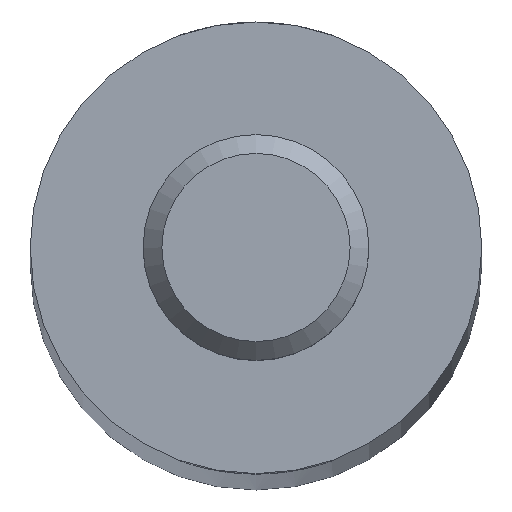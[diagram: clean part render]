
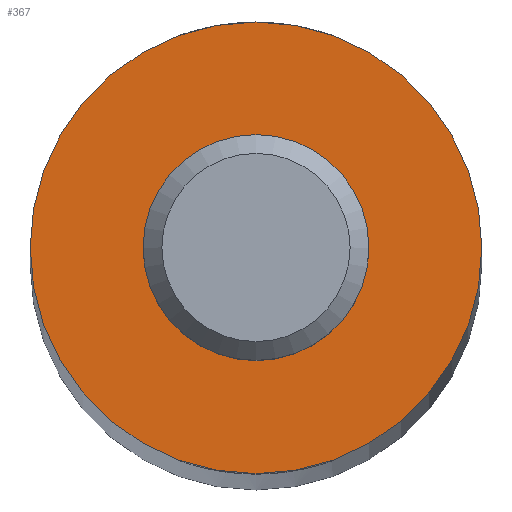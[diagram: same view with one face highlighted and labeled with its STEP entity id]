
A CAD part, top view. The second image highlights one B-rep face of the part: STEP entity #367.
In plain terms, the highlighted planar face has unit normal (0, 0, 1).
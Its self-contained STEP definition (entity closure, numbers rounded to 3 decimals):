
#77=CARTESIAN_POINT('',(6.,0.,250.0));
#78=VERTEX_POINT('',#77);
#79=CARTESIAN_POINT('',(0.0,0.0,250.0));
#80=DIRECTION('',(0.0,0.0,-1.0));
#81=DIRECTION('',(-1.0,0.0,0.0));
#82=AXIS2_PLACEMENT_3D('',#79,#80,#81);
#83=CIRCLE('',#82,6.);
#84=EDGE_CURVE('',#78,#78,#83,.T.);
#332=CARTESIAN_POINT('',(2.5,0.,250.0));
#333=VERTEX_POINT('',#332);
#334=CARTESIAN_POINT('',(0.0,0.0,250.0));
#335=DIRECTION('',(0.0,0.0,1.0));
#336=DIRECTION('',(-1.0,0.0,0.0));
#337=AXIS2_PLACEMENT_3D('',#334,#335,#336);
#338=CIRCLE('',#337,2.5);
#339=EDGE_CURVE('',#333,#333,#338,.T.);
#356=CARTESIAN_POINT('',(0.0,0.0,250.0));
#357=DIRECTION('',(0.0,0.0,1.0));
#358=DIRECTION('',(1.0,0.0,0.0));
#359=AXIS2_PLACEMENT_3D('',#356,#357,#358);
#360=PLANE('',#359);
#361=ORIENTED_EDGE('',*,*,#84,.F.);
#362=EDGE_LOOP('',(#361));
#363=FACE_OUTER_BOUND('',#362,.T.);
#364=ORIENTED_EDGE('',*,*,#339,.F.);
#365=EDGE_LOOP('',(#364));
#366=FACE_BOUND('',#365,.T.);
#367=ADVANCED_FACE('',(#363,#366),#360,.T.);
